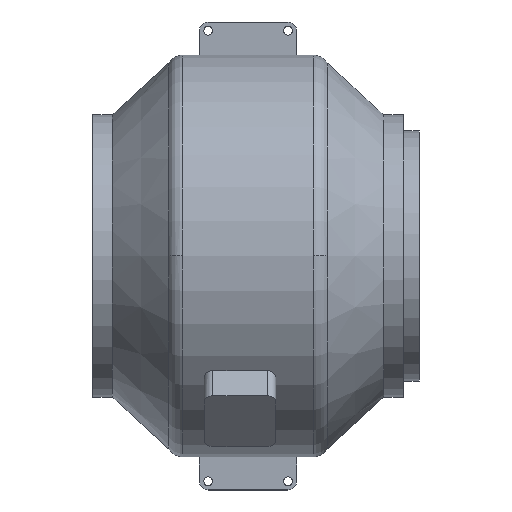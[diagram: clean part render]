
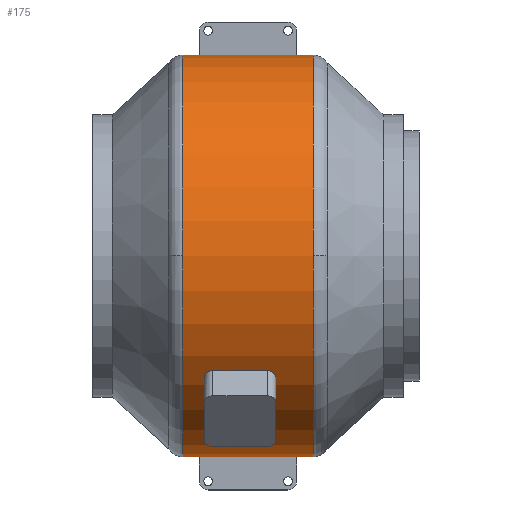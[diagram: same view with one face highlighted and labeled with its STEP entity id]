
A CAD part, top view. The second image highlights one B-rep face of the part: STEP entity #175.
In plain terms, the highlighted cylindrical face has radius 252 mm (diameter 504 mm), a partial arc.
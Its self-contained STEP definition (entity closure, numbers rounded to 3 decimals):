
#175=ADVANCED_FACE('',(#471),#472,.T.);
#471=FACE_OUTER_BOUND('',#931,.T.);
#472=CYLINDRICAL_SURFACE('',#932,252.0);
#931=EDGE_LOOP('',(#1422,#1423,#1424,#1425,#1426,#1427,#1428,#1429,#1430,#1431,#1432,#1433,#1434,#1435));
#932=AXIS2_PLACEMENT_3D('',#1436,#1437,#1438);
#1422=ORIENTED_EDGE('',*,*,#2679,.F.);
#1423=ORIENTED_EDGE('',*,*,#2667,.T.);
#1424=ORIENTED_EDGE('',*,*,#2680,.T.);
#1425=ORIENTED_EDGE('',*,*,#2681,.F.);
#1426=ORIENTED_EDGE('',*,*,#2682,.T.);
#1427=ORIENTED_EDGE('',*,*,#2683,.T.);
#1428=ORIENTED_EDGE('',*,*,#2684,.T.);
#1429=ORIENTED_EDGE('',*,*,#2685,.F.);
#1430=ORIENTED_EDGE('',*,*,#2686,.F.);
#1431=ORIENTED_EDGE('',*,*,#2659,.F.);
#1432=ORIENTED_EDGE('',*,*,#2687,.F.);
#1433=ORIENTED_EDGE('',*,*,#2688,.T.);
#1434=ORIENTED_EDGE('',*,*,#2689,.T.);
#1435=ORIENTED_EDGE('',*,*,#2690,.T.);
#1436=CARTESIAN_POINT('',(-10.0,0.0,0.0));
#1437=DIRECTION('',(-1.0,0.0,0.0));
#1438=DIRECTION('',(0.0,1.0,0.0));
#2659=EDGE_CURVE('',#3177,#3179,#3180,.T.);
#2667=EDGE_CURVE('',#3193,#3191,#3194,.T.);
#2679=EDGE_CURVE('',#3193,#3211,#3212,.T.);
#2680=EDGE_CURVE('',#3191,#3213,#3214,.T.);
#2681=EDGE_CURVE('',#3215,#3213,#3216,.T.);
#2682=EDGE_CURVE('',#3215,#3217,#3218,.T.);
#2683=EDGE_CURVE('',#3217,#3219,#3220,.T.);
#2684=EDGE_CURVE('',#3219,#3221,#3222,.T.);
#2685=EDGE_CURVE('',#3223,#3221,#3224,.T.);
#2686=EDGE_CURVE('',#3179,#3223,#3225,.T.);
#2687=EDGE_CURVE('',#3226,#3177,#3227,.T.);
#2688=EDGE_CURVE('',#3226,#3228,#3229,.T.);
#2689=EDGE_CURVE('',#3228,#3230,#3231,.T.);
#2690=EDGE_CURVE('',#3230,#3211,#3232,.T.);
#3177=VERTEX_POINT('',#3933);
#3179=VERTEX_POINT('',#3935);
#3180=CIRCLE('',#3936,252.0);
#3191=VERTEX_POINT('',#3947);
#3193=VERTEX_POINT('',#3949);
#3194=CIRCLE('',#3950,252.0);
#3211=VERTEX_POINT('',#3971);
#3212=LINE('',#3972,#3973);
#3213=VERTEX_POINT('',#3974);
#3214=CIRCLE('',#3975,252.0);
#3215=VERTEX_POINT('',#3976);
#3216=LINE('',#3977,#3978);
#3217=VERTEX_POINT('',#3979);
#3218=CIRCLE('',#3980,252.0);
#3219=VERTEX_POINT('',#3981);
#3220=LINE('',#3982,#3983);
#3221=VERTEX_POINT('',#3984);
#3222=CIRCLE('',#3985,252.0);
#3223=VERTEX_POINT('',#3986);
#3224=LINE('',#3987,#3988);
#3225=CIRCLE('',#3989,252.0);
#3226=VERTEX_POINT('',#3990);
#3227=LINE('',#3991,#3992);
#3228=VERTEX_POINT('',#3993);
#3229=CIRCLE('',#3994,252.0);
#3230=VERTEX_POINT('',#3995);
#3231=LINE('',#3996,#3997);
#3232=CIRCLE('',#3998,252.0);
#3933=CARTESIAN_POINT('',(72.0,252.0,0.0));
#3935=CARTESIAN_POINT('',(72.0,0.,252.0));
#3936=AXIS2_PLACEMENT_3D('',#5224,#5225,#5226);
#3947=CARTESIAN_POINT('',(-92.0,0.,252.0));
#3949=CARTESIAN_POINT('',(-92.0,252.0,0.0));
#3950=AXIS2_PLACEMENT_3D('',#5245,#5246,#5247);
#3971=CARTESIAN_POINT('',(-71.0,252.0,0.));
#3972=CARTESIAN_POINT('',(-10.0,252.0,0.));
#3973=VECTOR('',#5264,1.0);
#3974=CARTESIAN_POINT('',(-92.0,-252.0,0.));
#3975=AXIS2_PLACEMENT_3D('',#5265,#5266,#5267);
#3976=CARTESIAN_POINT('',(-71.0,-252.0,0.));
#3977=CARTESIAN_POINT('',(-10.0,-252.0,0.));
#3978=VECTOR('',#5268,1.0);
#3979=CARTESIAN_POINT('',(-71.,-251.988,2.5));
#3980=AXIS2_PLACEMENT_3D('',#5269,#5270,#5271);
#3981=CARTESIAN_POINT('',(51.0,-251.988,2.5));
#3982=CARTESIAN_POINT('',(-10.0,-251.988,2.5));
#3983=VECTOR('',#5272,1.0);
#3984=CARTESIAN_POINT('',(51.0,-252.0,0.));
#3985=AXIS2_PLACEMENT_3D('',#5273,#5274,#5275);
#3986=CARTESIAN_POINT('',(72.0,-252.0,0.));
#3987=CARTESIAN_POINT('',(-10.0,-252.0,0.));
#3988=VECTOR('',#5276,1.0);
#3989=AXIS2_PLACEMENT_3D('',#5277,#5278,#5279);
#3990=CARTESIAN_POINT('',(51.0,252.0,0.));
#3991=CARTESIAN_POINT('',(-10.0,252.0,0.));
#3992=VECTOR('',#5280,1.0);
#3993=CARTESIAN_POINT('',(51.0,251.988,2.5));
#3994=AXIS2_PLACEMENT_3D('',#5281,#5282,#5283);
#3995=CARTESIAN_POINT('',(-71.0,251.988,2.5));
#3996=CARTESIAN_POINT('',(-10.0,251.988,2.5));
#3997=VECTOR('',#5284,1.0);
#3998=AXIS2_PLACEMENT_3D('',#5285,#5286,#5287);
#5224=CARTESIAN_POINT('',(72.0,0.0,0.0));
#5225=DIRECTION('',(1.0,0.0,0.0));
#5226=DIRECTION('',(0.0,1.0,0.0));
#5245=CARTESIAN_POINT('',(-92.0,0.0,0.0));
#5246=DIRECTION('',(1.0,0.0,0.0));
#5247=DIRECTION('',(0.0,1.0,0.0));
#5264=DIRECTION('',(1.0,0.0,0.0));
#5265=CARTESIAN_POINT('',(-92.0,0.0,0.0));
#5266=DIRECTION('',(1.0,0.0,0.0));
#5267=DIRECTION('',(0.0,1.0,0.0));
#5268=DIRECTION('',(-1.0,-0.0,-0.0));
#5269=CARTESIAN_POINT('',(-71.0,0.0,0.0));
#5270=DIRECTION('',(-1.0,0.,0.0));
#5271=DIRECTION('',(0.,1.0,0.0));
#5272=DIRECTION('',(1.0,0.0,0.0));
#5273=CARTESIAN_POINT('',(51.0,0.0,0.0));
#5274=DIRECTION('',(1.0,0.,0.0));
#5275=DIRECTION('',(0.,1.0,0.0));
#5276=DIRECTION('',(-1.0,-0.0,-0.0));
#5277=CARTESIAN_POINT('',(72.0,0.0,0.0));
#5278=DIRECTION('',(1.0,0.0,0.0));
#5279=DIRECTION('',(0.0,1.0,0.0));
#5280=DIRECTION('',(1.0,0.0,0.0));
#5281=CARTESIAN_POINT('',(51.0,0.0,0.0));
#5282=DIRECTION('',(1.0,0.,0.0));
#5283=DIRECTION('',(0.,1.0,0.0));
#5284=DIRECTION('',(-1.0,-0.0,-0.0));
#5285=CARTESIAN_POINT('',(-71.0,0.0,0.0));
#5286=DIRECTION('',(-1.0,0.,0.0));
#5287=DIRECTION('',(0.,1.0,0.0));
